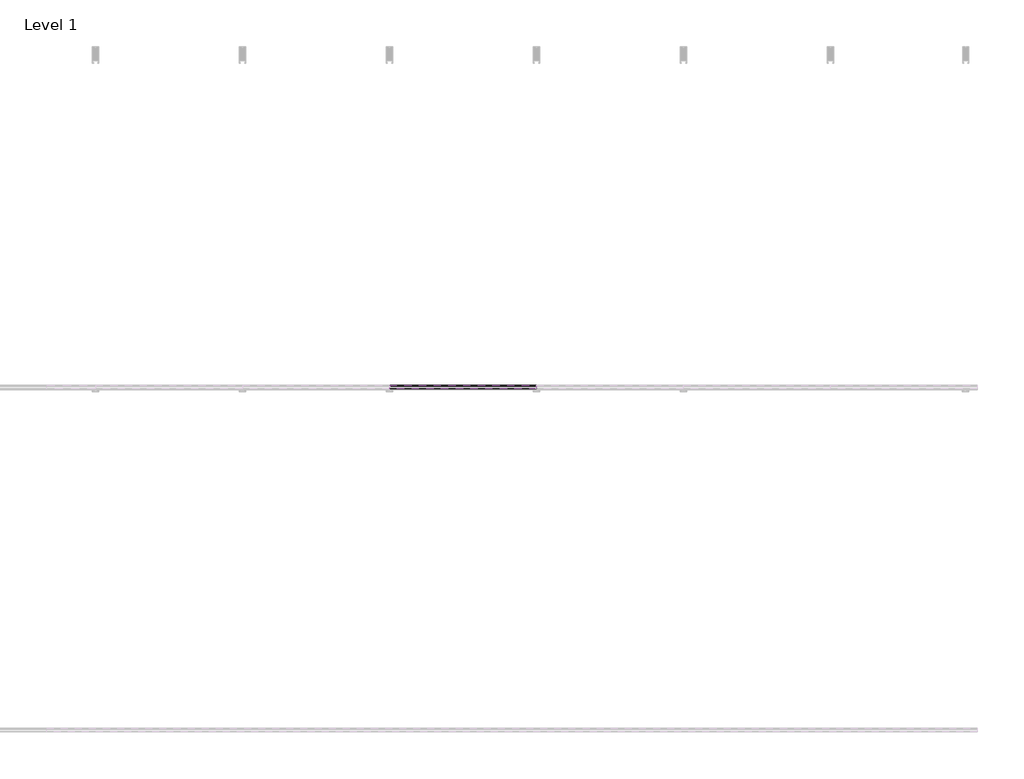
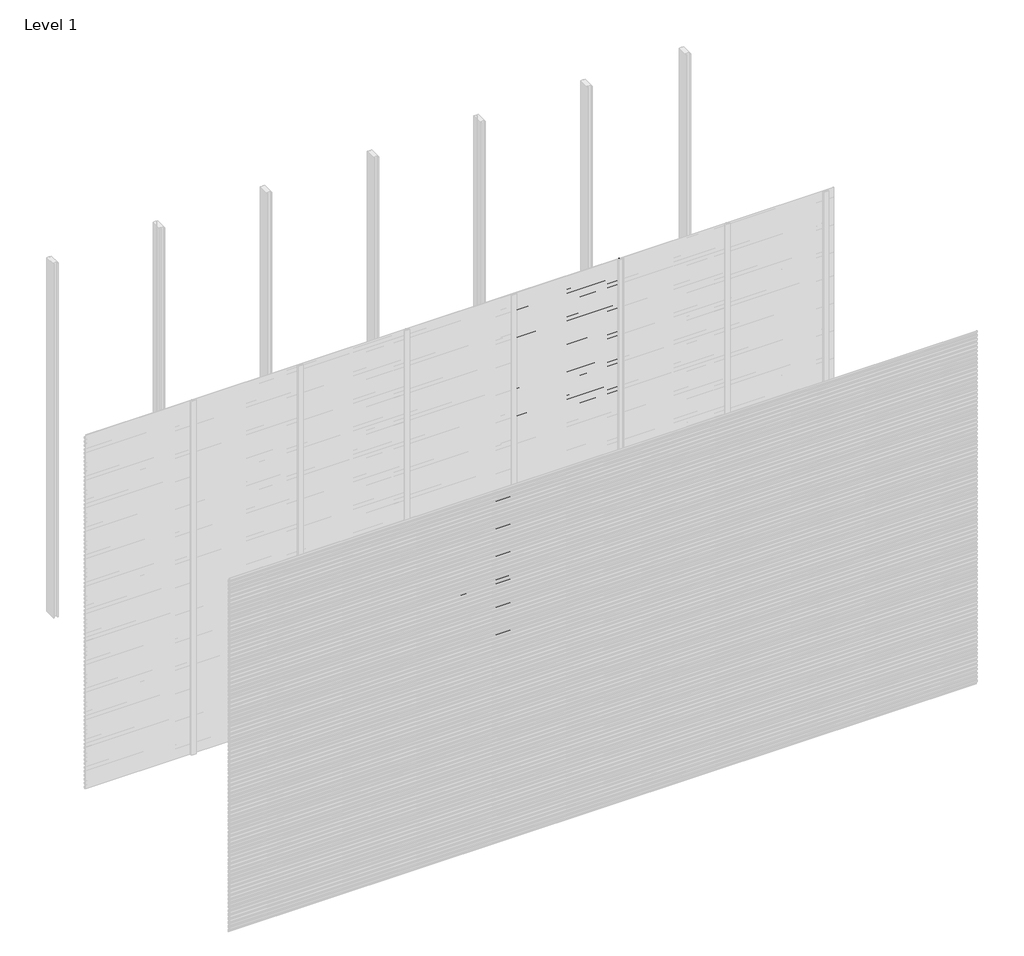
# One storey, part 56 of 96: 77 proxies.
"""IFC4 building model written with IfcOpenShell, lengths in millimetres."""

from ifc_helpers import new_model, si_unit, frame, origin, place, context, project, spatial, polyline, outline, extrude, element, save

model = new_model("IFC4")

# Units and contexts
model_context = context("Model", 3, world=origin())
ifc_project = project(units=[si_unit("LENGTHUNIT", "METRE", prefix="MILLI")], contexts=[model_context])

# Site, building, storey
site = spatial("IfcSite", under=ifc_project)
building = spatial("IfcBuilding", under=site)
storey = spatial("IfcBuildingStorey", under=building, Name="Level 1", Elevation=0.0)

# Proxies
placement = place(None, origin())
element("IfcBuildingElementProxy", 1, Name="Wall Sweeps", at=placement, inside=storey, context=model_context, shape_type="SweptSolid", body=[
    extrude(outline(polyline([(-23977.6, 1340.0655033), (-23977.6, 1325.7779188), (-23982.4114965, 1323.0), (-23982.4114965, 1324.2701706), (-23978.85, 1326.3264016), (-23978.85, 1339.3437382), (-23998.0, 1350.4000799), (-23998.0, 1365.3), (-23996.75, 1365.3), (-23996.75, 1351.1217609), (-23977.6, 1340.0655033)])), frame((2571.4285714, 0.0, 0.0), z_axis=(1.0, 0.0, 0.0), x_axis=(0.0, 1.0, 0.0)), (0.0, 0.0, 1.0), 857.1428571),
])
element("IfcBuildingElementProxy", 2, Name="Wall Sweeps", at=placement, inside=storey, context=model_context, shape_type="SweptSolid", body=[
    extrude(outline(polyline([(-23977.6, 1306.7655033), (-23977.6, 1292.4779188), (-23982.4114965, 1289.7), (-23982.4114965, 1290.9701706), (-23978.85, 1293.0264016), (-23978.85, 1306.0437382), (-23998.0, 1317.1000799), (-23998.0, 1332.0), (-23996.75, 1332.0), (-23996.75, 1317.8217609), (-23977.6, 1306.7655033)])), frame((2571.4285714, 0.0, 0.0), z_axis=(1.0, 0.0, 0.0), x_axis=(0.0, 1.0, 0.0)), (0.0, 0.0, 1.0), 857.1428571),
])
element("IfcBuildingElementProxy", 3, Name="Wall Sweeps", at=placement, inside=storey, context=model_context, shape_type="SweptSolid", body=[
    extrude(outline(polyline([(-23977.6, 1273.4655033), (-23977.6, 1259.1779188), (-23982.4114965, 1256.4), (-23982.4114965, 1257.6701706), (-23978.85, 1259.7264016), (-23978.85, 1272.7437382), (-23998.0, 1283.8000799), (-23998.0, 1298.7), (-23996.75, 1298.7), (-23996.75, 1284.5217609), (-23977.6, 1273.4655033)])), frame((2571.4285714, 0.0, 0.0), z_axis=(1.0, 0.0, 0.0), x_axis=(0.0, 1.0, 0.0)), (0.0, 0.0, 1.0), 857.1428571),
])
element("IfcBuildingElementProxy", 4, Name="Wall Sweeps", at=placement, inside=storey, context=model_context, shape_type="SweptSolid", body=[
    extrude(outline(polyline([(-23977.6, 1240.1655033), (-23977.6, 1225.8779188), (-23982.4114965, 1223.1), (-23982.4114965, 1224.3701706), (-23978.85, 1226.4264016), (-23978.85, 1239.4437382), (-23998.0, 1250.5000799), (-23998.0, 1265.4), (-23996.75, 1265.4), (-23996.75, 1251.2217609), (-23977.6, 1240.1655033)])), frame((2571.4285714, 0.0, 0.0), z_axis=(1.0, 0.0, 0.0), x_axis=(0.0, 1.0, 0.0)), (0.0, 0.0, 1.0), 857.1428571),
])
element("IfcBuildingElementProxy", 5, Name="Wall Sweeps", at=placement, inside=storey, context=model_context, shape_type="SweptSolid", body=[
    extrude(outline(polyline([(-23977.6, 1206.8655033), (-23977.6, 1192.5779188), (-23982.4114965, 1189.8), (-23982.4114965, 1191.0701706), (-23978.85, 1193.1264016), (-23978.85, 1206.1437382), (-23998.0, 1217.2000799), (-23998.0, 1232.1), (-23996.75, 1232.1), (-23996.75, 1217.9217609), (-23977.6, 1206.8655033)])), frame((2571.4285714, 0.0, 0.0), z_axis=(1.0, 0.0, 0.0), x_axis=(0.0, 1.0, 0.0)), (0.0, 0.0, 1.0), 857.1428571),
])
element("IfcBuildingElementProxy", 6, Name="Wall Sweeps", at=placement, inside=storey, context=model_context, shape_type="SweptSolid", body=[
    extrude(outline(polyline([(-23977.6, 1173.5655033), (-23977.6, 1159.2779188), (-23982.4114965, 1156.5), (-23982.4114965, 1157.7701706), (-23978.85, 1159.8264016), (-23978.85, 1172.8437382), (-23998.0, 1183.9000799), (-23998.0, 1198.8), (-23996.75, 1198.8), (-23996.75, 1184.6217609), (-23977.6, 1173.5655033)])), frame((2571.4285714, 0.0, 0.0), z_axis=(1.0, 0.0, 0.0), x_axis=(0.0, 1.0, 0.0)), (0.0, 0.0, 1.0), 857.1428571),
])
element("IfcBuildingElementProxy", 7, Name="Wall Sweeps", at=placement, inside=storey, context=model_context, shape_type="SweptSolid", body=[
    extrude(outline(polyline([(-23977.6, 1140.2655033), (-23977.6, 1125.9779188), (-23982.4114965, 1123.2), (-23982.4114965, 1124.4701706), (-23978.85, 1126.5264016), (-23978.85, 1139.5437382), (-23998.0, 1150.6000799), (-23998.0, 1165.5), (-23996.75, 1165.5), (-23996.75, 1151.3217609), (-23977.6, 1140.2655033)])), frame((2571.4285714, 0.0, 0.0), z_axis=(1.0, 0.0, 0.0), x_axis=(0.0, 1.0, 0.0)), (0.0, 0.0, 1.0), 857.1428571),
])
element("IfcBuildingElementProxy", 8, Name="Wall Sweeps", at=placement, inside=storey, context=model_context, shape_type="SweptSolid", body=[
    extrude(outline(polyline([(-23977.6, 1106.9655033), (-23977.6, 1092.6779188), (-23982.4114965, 1089.9), (-23982.4114965, 1091.1701706), (-23978.85, 1093.2264016), (-23978.85, 1106.2437382), (-23998.0, 1117.3000799), (-23998.0, 1132.2), (-23996.75, 1132.2), (-23996.75, 1118.0217609), (-23977.6, 1106.9655033)])), frame((2571.4285714, 0.0, 0.0), z_axis=(1.0, 0.0, 0.0), x_axis=(0.0, 1.0, 0.0)), (0.0, 0.0, 1.0), 857.1428571),
])
element("IfcBuildingElementProxy", 9, Name="Wall Sweeps", at=placement, inside=storey, context=model_context, shape_type="SweptSolid", body=[
    extrude(outline(polyline([(-23977.6, 1073.6655033), (-23977.6, 1059.3779188), (-23982.4114965, 1056.6), (-23982.4114965, 1057.8701706), (-23978.85, 1059.9264016), (-23978.85, 1072.9437382), (-23998.0, 1084.0000799), (-23998.0, 1098.9), (-23996.75, 1098.9), (-23996.75, 1084.7217609), (-23977.6, 1073.6655033)])), frame((2571.4285714, 0.0, 0.0), z_axis=(1.0, 0.0, 0.0), x_axis=(0.0, 1.0, 0.0)), (0.0, 0.0, 1.0), 857.1428571),
])
element("IfcBuildingElementProxy", 10, Name="Wall Sweeps", at=placement, inside=storey, context=model_context, shape_type="SweptSolid", body=[
    extrude(outline(polyline([(-23977.6, 1040.3655033), (-23977.6, 1026.0779188), (-23982.4114965, 1023.3), (-23982.4114965, 1024.5701706), (-23978.85, 1026.6264016), (-23978.85, 1039.6437382), (-23998.0, 1050.7000799), (-23998.0, 1065.6), (-23996.75, 1065.6), (-23996.75, 1051.4217609), (-23977.6, 1040.3655033)])), frame((2571.4285714, 0.0, 0.0), z_axis=(1.0, 0.0, 0.0), x_axis=(0.0, 1.0, 0.0)), (0.0, 0.0, 1.0), 857.1428571),
])
element("IfcBuildingElementProxy", 11, Name="Wall Sweeps", at=placement, inside=storey, context=model_context, shape_type="SweptSolid", body=[
    extrude(outline(polyline([(-23977.6, 1007.0655033), (-23977.6, 992.7779188), (-23982.4114965, 990.0), (-23982.4114965, 991.2701706), (-23978.85, 993.3264016), (-23978.85, 1006.3437382), (-23998.0, 1017.4000799), (-23998.0, 1032.3), (-23996.75, 1032.3), (-23996.75, 1018.1217609), (-23977.6, 1007.0655033)])), frame((2571.4285714, 0.0, 0.0), z_axis=(1.0, 0.0, 0.0), x_axis=(0.0, 1.0, 0.0)), (0.0, 0.0, 1.0), 857.1428571),
])
element("IfcBuildingElementProxy", 12, Name="Wall Sweeps", at=placement, inside=storey, context=model_context, shape_type="SweptSolid", body=[
    extrude(outline(polyline([(-23977.6, 973.7655033), (-23977.6, 959.4779188), (-23982.4114965, 956.7), (-23982.4114965, 957.9701706), (-23978.85, 960.0264016), (-23978.85, 973.0437382), (-23998.0, 984.1000799), (-23998.0, 999.0), (-23996.75, 999.0), (-23996.75, 984.8217609), (-23977.6, 973.7655033)])), frame((2571.4285714, 0.0, 0.0), z_axis=(1.0, 0.0, 0.0), x_axis=(0.0, 1.0, 0.0)), (0.0, 0.0, 1.0), 857.1428571),
])
element("IfcBuildingElementProxy", 13, Name="Wall Sweeps", at=placement, inside=storey, context=model_context, shape_type="SweptSolid", body=[
    extrude(outline(polyline([(-23977.6, 940.4655033), (-23977.6, 926.1779188), (-23982.4114965, 923.4), (-23982.4114965, 924.6701706), (-23978.85, 926.7264016), (-23978.85, 939.7437382), (-23998.0, 950.8000799), (-23998.0, 965.7), (-23996.75, 965.7), (-23996.75, 951.5217609), (-23977.6, 940.4655033)])), frame((2571.4285714, 0.0, 0.0), z_axis=(1.0, 0.0, 0.0), x_axis=(0.0, 1.0, 0.0)), (0.0, 0.0, 1.0), 857.1428571),
])
element("IfcBuildingElementProxy", 14, Name="Wall Sweeps", at=placement, inside=storey, context=model_context, shape_type="SweptSolid", body=[
    extrude(outline(polyline([(-23977.6, 907.1655033), (-23977.6, 892.8779188), (-23982.4114965, 890.1), (-23982.4114965, 891.3701706), (-23978.85, 893.4264016), (-23978.85, 906.4437382), (-23998.0, 917.5000799), (-23998.0, 932.4), (-23996.75, 932.4), (-23996.75, 918.2217609), (-23977.6, 907.1655033)])), frame((2571.4285714, 0.0, 0.0), z_axis=(1.0, 0.0, 0.0), x_axis=(0.0, 1.0, 0.0)), (0.0, 0.0, 1.0), 857.1428571),
])
element("IfcBuildingElementProxy", 15, Name="Wall Sweeps", at=placement, inside=storey, context=model_context, shape_type="SweptSolid", body=[
    extrude(outline(polyline([(-23977.6, 873.8655033), (-23977.6, 859.5779188), (-23982.4114965, 856.8), (-23982.4114965, 858.0701706), (-23978.85, 860.1264016), (-23978.85, 873.1437382), (-23998.0, 884.2000799), (-23998.0, 899.1), (-23996.75, 899.1), (-23996.75, 884.9217609), (-23977.6, 873.8655033)])), frame((2571.4285714, 0.0, 0.0), z_axis=(1.0, 0.0, 0.0), x_axis=(0.0, 1.0, 0.0)), (0.0, 0.0, 1.0), 857.1428571),
])
element("IfcBuildingElementProxy", 16, Name="Wall Sweeps", at=placement, inside=storey, context=model_context, shape_type="SweptSolid", body=[
    extrude(outline(polyline([(-23977.6, 840.5655033), (-23977.6, 826.2779188), (-23982.4114965, 823.5), (-23982.4114965, 824.7701706), (-23978.85, 826.8264016), (-23978.85, 839.8437382), (-23998.0, 850.9000799), (-23998.0, 865.8), (-23996.75, 865.8), (-23996.75, 851.6217609), (-23977.6, 840.5655033)])), frame((2571.4285714, 0.0, 0.0), z_axis=(1.0, 0.0, 0.0), x_axis=(0.0, 1.0, 0.0)), (0.0, 0.0, 1.0), 857.1428571),
])
element("IfcBuildingElementProxy", 17, Name="Wall Sweeps", at=placement, inside=storey, context=model_context, shape_type="SweptSolid", body=[
    extrude(outline(polyline([(-23977.6, 807.2655033), (-23977.6, 792.9779188), (-23982.4114965, 790.2), (-23982.4114965, 791.4701706), (-23978.85, 793.5264016), (-23978.85, 806.5437382), (-23998.0, 817.6000799), (-23998.0, 832.5), (-23996.75, 832.5), (-23996.75, 818.3217609), (-23977.6, 807.2655033)])), frame((2571.4285714, 0.0, 0.0), z_axis=(1.0, 0.0, 0.0), x_axis=(0.0, 1.0, 0.0)), (0.0, 0.0, 1.0), 857.1428571),
])
element("IfcBuildingElementProxy", 18, Name="Wall Sweeps", at=placement, inside=storey, context=model_context, shape_type="SweptSolid", body=[
    extrude(outline(polyline([(-23977.6, 773.9655033), (-23977.6, 759.6779188), (-23982.4114965, 756.9), (-23982.4114965, 758.1701706), (-23978.85, 760.2264016), (-23978.85, 773.2437382), (-23998.0, 784.3000799), (-23998.0, 799.2), (-23996.75, 799.2), (-23996.75, 785.0217609), (-23977.6, 773.9655033)])), frame((2571.4285714, 0.0, 0.0), z_axis=(1.0, 0.0, 0.0), x_axis=(0.0, 1.0, 0.0)), (0.0, 0.0, 1.0), 857.1428571),
])
element("IfcBuildingElementProxy", 19, Name="Wall Sweeps", at=placement, inside=storey, context=model_context, shape_type="SweptSolid", body=[
    extrude(outline(polyline([(-23977.6, 740.6655033), (-23977.6, 726.3779188), (-23982.4114965, 723.6), (-23982.4114965, 724.8701706), (-23978.85, 726.9264016), (-23978.85, 739.9437382), (-23998.0, 751.0000799), (-23998.0, 765.9), (-23996.75, 765.9), (-23996.75, 751.7217609), (-23977.6, 740.6655033)])), frame((2571.4285714, 0.0, 0.0), z_axis=(1.0, 0.0, 0.0), x_axis=(0.0, 1.0, 0.0)), (0.0, 0.0, 1.0), 857.1428571),
])
element("IfcBuildingElementProxy", 20, Name="Wall Sweeps", at=placement, inside=storey, context=model_context, shape_type="SweptSolid", body=[
    extrude(outline(polyline([(-23977.6, 707.3655033), (-23977.6, 693.0779188), (-23982.4114965, 690.3), (-23982.4114965, 691.5701706), (-23978.85, 693.6264016), (-23978.85, 706.6437382), (-23998.0, 717.7000799), (-23998.0, 732.6), (-23996.75, 732.6), (-23996.75, 718.4217609), (-23977.6, 707.3655033)])), frame((2571.4285714, 0.0, 0.0), z_axis=(1.0, 0.0, 0.0), x_axis=(0.0, 1.0, 0.0)), (0.0, 0.0, 1.0), 857.1428571),
])
element("IfcBuildingElementProxy", 21, Name="Wall Sweeps", at=placement, inside=storey, context=model_context, shape_type="SweptSolid", body=[
    extrude(outline(polyline([(-23977.6, 674.0655033), (-23977.6, 659.7779188), (-23982.4114965, 657.0), (-23982.4114965, 658.2701706), (-23978.85, 660.3264016), (-23978.85, 673.3437382), (-23998.0, 684.4000799), (-23998.0, 699.3), (-23996.75, 699.3), (-23996.75, 685.1217609), (-23977.6, 674.0655033)])), frame((2571.4285714, 0.0, 0.0), z_axis=(1.0, 0.0, 0.0), x_axis=(0.0, 1.0, 0.0)), (0.0, 0.0, 1.0), 857.1428571),
])
element("IfcBuildingElementProxy", 22, Name="Wall Sweeps", at=placement, inside=storey, context=model_context, shape_type="SweptSolid", body=[
    extrude(outline(polyline([(-23977.6, 640.7655033), (-23977.6, 626.4779188), (-23982.4114965, 623.7), (-23982.4114965, 624.9701706), (-23978.85, 627.0264016), (-23978.85, 640.0437382), (-23998.0, 651.1000799), (-23998.0, 666.0), (-23996.75, 666.0), (-23996.75, 651.8217609), (-23977.6, 640.7655033)])), frame((2571.4285714, 0.0, 0.0), z_axis=(1.0, 0.0, 0.0), x_axis=(0.0, 1.0, 0.0)), (0.0, 0.0, 1.0), 857.1428571),
])
element("IfcBuildingElementProxy", 23, Name="Wall Sweeps", at=placement, inside=storey, context=model_context, shape_type="SweptSolid", body=[
    extrude(outline(polyline([(-23977.6, 607.4655033), (-23977.6, 593.1779188), (-23982.4114965, 590.4), (-23982.4114965, 591.6701706), (-23978.85, 593.7264016), (-23978.85, 606.7437382), (-23998.0, 617.8000799), (-23998.0, 632.7), (-23996.75, 632.7), (-23996.75, 618.5217609), (-23977.6, 607.4655033)])), frame((2571.4285714, 0.0, 0.0), z_axis=(1.0, 0.0, 0.0), x_axis=(0.0, 1.0, 0.0)), (0.0, 0.0, 1.0), 857.1428571),
])
element("IfcBuildingElementProxy", 24, Name="Wall Sweeps", at=placement, inside=storey, context=model_context, shape_type="SweptSolid", body=[
    extrude(outline(polyline([(-23977.6, 574.1655033), (-23977.6, 559.8779188), (-23982.4114965, 557.1), (-23982.4114965, 558.3701706), (-23978.85, 560.4264016), (-23978.85, 573.4437382), (-23998.0, 584.5000799), (-23998.0, 599.4), (-23996.75, 599.4), (-23996.75, 585.2217609), (-23977.6, 574.1655033)])), frame((2571.4285714, 0.0, 0.0), z_axis=(1.0, 0.0, 0.0), x_axis=(0.0, 1.0, 0.0)), (0.0, 0.0, 1.0), 857.1428571),
])
element("IfcBuildingElementProxy", 25, Name="Wall Sweeps", at=placement, inside=storey, context=model_context, shape_type="SweptSolid", body=[
    extrude(outline(polyline([(-23977.6, 540.8655033), (-23977.6, 526.5779188), (-23982.4114965, 523.8), (-23982.4114965, 525.0701706), (-23978.85, 527.1264016), (-23978.85, 540.1437382), (-23998.0, 551.2000799), (-23998.0, 566.1), (-23996.75, 566.1), (-23996.75, 551.9217609), (-23977.6, 540.8655033)])), frame((2571.4285714, 0.0, 0.0), z_axis=(1.0, 0.0, 0.0), x_axis=(0.0, 1.0, 0.0)), (0.0, 0.0, 1.0), 857.1428571),
])
element("IfcBuildingElementProxy", 26, Name="Wall Sweeps", at=placement, inside=storey, context=model_context, shape_type="SweptSolid", body=[
    extrude(outline(polyline([(-23977.6, 507.5655033), (-23977.6, 493.2779188), (-23982.4114965, 490.5), (-23982.4114965, 491.7701706), (-23978.85, 493.8264016), (-23978.85, 506.8437382), (-23998.0, 517.9000799), (-23998.0, 532.8), (-23996.75, 532.8), (-23996.75, 518.6217609), (-23977.6, 507.5655033)])), frame((2571.4285714, 0.0, 0.0), z_axis=(1.0, 0.0, 0.0), x_axis=(0.0, 1.0, 0.0)), (0.0, 0.0, 1.0), 857.1428571),
])
element("IfcBuildingElementProxy", 27, Name="Wall Sweeps", at=placement, inside=storey, context=model_context, shape_type="SweptSolid", body=[
    extrude(outline(polyline([(-23977.6, 474.2655033), (-23977.6, 459.9779188), (-23982.4114965, 457.2), (-23982.4114965, 458.4701706), (-23978.85, 460.5264016), (-23978.85, 473.5437382), (-23998.0, 484.6000799), (-23998.0, 499.5), (-23996.75, 499.5), (-23996.75, 485.3217609), (-23977.6, 474.2655033)])), frame((2571.4285714, 0.0, 0.0), z_axis=(1.0, 0.0, 0.0), x_axis=(0.0, 1.0, 0.0)), (0.0, 0.0, 1.0), 857.1428571),
])
element("IfcBuildingElementProxy", 28, Name="Wall Sweeps", at=placement, inside=storey, context=model_context, shape_type="SweptSolid", body=[
    extrude(outline(polyline([(-23977.6, 440.9655033), (-23977.6, 426.6779188), (-23982.4114965, 423.9), (-23982.4114965, 425.1701706), (-23978.85, 427.2264016), (-23978.85, 440.2437382), (-23998.0, 451.3000799), (-23998.0, 466.2), (-23996.75, 466.2), (-23996.75, 452.0217609), (-23977.6, 440.9655033)])), frame((2571.4285714, 0.0, 0.0), z_axis=(1.0, 0.0, 0.0), x_axis=(0.0, 1.0, 0.0)), (0.0, 0.0, 1.0), 857.1428571),
])
element("IfcBuildingElementProxy", 29, Name="Wall Sweeps", at=placement, inside=storey, context=model_context, shape_type="SweptSolid", body=[
    extrude(outline(polyline([(-23977.6, 407.6655033), (-23977.6, 393.3779188), (-23982.4114965, 390.6), (-23982.4114965, 391.8701706), (-23978.85, 393.9264016), (-23978.85, 406.9437382), (-23998.0, 418.0000799), (-23998.0, 432.9), (-23996.75, 432.9), (-23996.75, 418.7217609), (-23977.6, 407.6655033)])), frame((2571.4285714, 0.0, 0.0), z_axis=(1.0, 0.0, 0.0), x_axis=(0.0, 1.0, 0.0)), (0.0, 0.0, 1.0), 857.1428571),
])
element("IfcBuildingElementProxy", 30, Name="Wall Sweeps", at=placement, inside=storey, context=model_context, shape_type="SweptSolid", body=[
    extrude(outline(polyline([(-23977.6, 374.3655033), (-23977.6, 360.0779188), (-23982.4114965, 357.3), (-23982.4114965, 358.5701706), (-23978.85, 360.6264016), (-23978.85, 373.6437382), (-23998.0, 384.7000799), (-23998.0, 399.6), (-23996.75, 399.6), (-23996.75, 385.4217609), (-23977.6, 374.3655033)])), frame((2571.4285714, 0.0, 0.0), z_axis=(1.0, 0.0, 0.0), x_axis=(0.0, 1.0, 0.0)), (0.0, 0.0, 1.0), 857.1428571),
])
element("IfcBuildingElementProxy", 31, Name="Wall Sweeps", at=placement, inside=storey, context=model_context, shape_type="SweptSolid", body=[
    extrude(outline(polyline([(-23977.6, 341.0655033), (-23977.6, 326.7779188), (-23982.4114965, 324.0), (-23982.4114965, 325.2701706), (-23978.85, 327.3264016), (-23978.85, 340.3437382), (-23998.0, 351.4000799), (-23998.0, 366.3), (-23996.75, 366.3), (-23996.75, 352.1217609), (-23977.6, 341.0655033)])), frame((2571.4285714, 0.0, 0.0), z_axis=(1.0, 0.0, 0.0), x_axis=(0.0, 1.0, 0.0)), (0.0, 0.0, 1.0), 857.1428571),
])
element("IfcBuildingElementProxy", 32, Name="Wall Sweeps", at=placement, inside=storey, context=model_context, shape_type="SweptSolid", body=[
    extrude(outline(polyline([(-23977.6, 307.7655033), (-23977.6, 293.4779188), (-23982.4114965, 290.7), (-23982.4114965, 291.9701706), (-23978.85, 294.0264016), (-23978.85, 307.0437382), (-23998.0, 318.1000799), (-23998.0, 333.0), (-23996.75, 333.0), (-23996.75, 318.8217609), (-23977.6, 307.7655033)])), frame((2571.4285714, 0.0, 0.0), z_axis=(1.0, 0.0, 0.0), x_axis=(0.0, 1.0, 0.0)), (0.0, 0.0, 1.0), 857.1428571),
])
element("IfcBuildingElementProxy", 33, Name="Wall Sweeps", at=placement, inside=storey, context=model_context, shape_type="SweptSolid", body=[
    extrude(outline(polyline([(-23977.6, 274.4655033), (-23977.6, 260.1779188), (-23982.4114965, 257.4), (-23982.4114965, 258.6701706), (-23978.85, 260.7264016), (-23978.85, 273.7437382), (-23998.0, 284.8000799), (-23998.0, 299.7), (-23996.75, 299.7), (-23996.75, 285.5217609), (-23977.6, 274.4655033)])), frame((2571.4285714, 0.0, 0.0), z_axis=(1.0, 0.0, 0.0), x_axis=(0.0, 1.0, 0.0)), (0.0, 0.0, 1.0), 857.1428571),
])
element("IfcBuildingElementProxy", 34, Name="Wall Sweeps", at=placement, inside=storey, context=model_context, shape_type="SweptSolid", body=[
    extrude(outline(polyline([(-23977.6, 241.1655033), (-23977.6, 226.8779188), (-23982.4114965, 224.1), (-23982.4114965, 225.3701706), (-23978.85, 227.4264016), (-23978.85, 240.4437382), (-23998.0, 251.5000799), (-23998.0, 266.4), (-23996.75, 266.4), (-23996.75, 252.2217609), (-23977.6, 241.1655033)])), frame((2571.4285714, 0.0, 0.0), z_axis=(1.0, 0.0, 0.0), x_axis=(0.0, 1.0, 0.0)), (0.0, 0.0, 1.0), 857.1428571),
])
element("IfcBuildingElementProxy", 35, Name="Wall Sweeps", at=placement, inside=storey, context=model_context, shape_type="SweptSolid", body=[
    extrude(outline(polyline([(-23977.6, 207.8655033), (-23977.6, 193.5779188), (-23982.4114965, 190.8), (-23982.4114965, 192.0701706), (-23978.85, 194.1264016), (-23978.85, 207.1437382), (-23998.0, 218.2000799), (-23998.0, 233.1), (-23996.75, 233.1), (-23996.75, 218.9217609), (-23977.6, 207.8655033)])), frame((2571.4285714, 0.0, 0.0), z_axis=(1.0, 0.0, 0.0), x_axis=(0.0, 1.0, 0.0)), (0.0, 0.0, 1.0), 857.1428571),
])
element("IfcBuildingElementProxy", 36, Name="Wall Sweeps", at=placement, inside=storey, context=model_context, shape_type="SweptSolid", body=[
    extrude(outline(polyline([(-23977.6, 174.5655033), (-23977.6, 160.2779188), (-23982.4114965, 157.5), (-23982.4114965, 158.7701706), (-23978.85, 160.8264016), (-23978.85, 173.8437382), (-23998.0, 184.9000799), (-23998.0, 199.8), (-23996.75, 199.8), (-23996.75, 185.6217609), (-23977.6, 174.5655033)])), frame((2571.4285714, 0.0, 0.0), z_axis=(1.0, 0.0, 0.0), x_axis=(0.0, 1.0, 0.0)), (0.0, 0.0, 1.0), 857.1428571),
])
element("IfcBuildingElementProxy", 37, Name="Wall Sweeps", at=placement, inside=storey, context=model_context, shape_type="SweptSolid", body=[
    extrude(outline(polyline([(-23977.6, 141.2655033), (-23977.6, 126.9779188), (-23982.4114965, 124.2), (-23982.4114965, 125.4701706), (-23978.85, 127.5264016), (-23978.85, 140.5437382), (-23998.0, 151.6000799), (-23998.0, 166.5), (-23996.75, 166.5), (-23996.75, 152.3217609), (-23977.6, 141.2655033)])), frame((2571.4285714, 0.0, 0.0), z_axis=(1.0, 0.0, 0.0), x_axis=(0.0, 1.0, 0.0)), (0.0, 0.0, 1.0), 857.1428571),
])
element("IfcBuildingElementProxy", 38, Name="Wall Sweeps", at=placement, inside=storey, context=model_context, shape_type="SweptSolid", body=[
    extrude(outline(polyline([(-23977.6, 107.9655033), (-23977.6, 93.6779188), (-23982.4114965, 90.9), (-23982.4114965, 92.1701706), (-23978.85, 94.2264016), (-23978.85, 107.2437382), (-23998.0, 118.3000799), (-23998.0, 133.2), (-23996.75, 133.2), (-23996.75, 119.0217609), (-23977.6, 107.9655033)])), frame((2571.4285714, 0.0, 0.0), z_axis=(1.0, 0.0, 0.0), x_axis=(0.0, 1.0, 0.0)), (0.0, 0.0, 1.0), 857.1428571),
])
element("IfcBuildingElementProxy", 39, Name="Wall Sweeps", at=placement, inside=storey, context=model_context, shape_type="SweptSolid", body=[
    extrude(outline(polyline([(-23977.6, 74.6655033), (-23977.6, 60.3779188), (-23982.4114965, 57.6), (-23982.4114965, 58.8701706), (-23978.85, 60.9264016), (-23978.85, 73.9437382), (-23998.0, 85.0000799), (-23998.0, 99.9), (-23996.75, 99.9), (-23996.75, 85.7217609), (-23977.6, 74.6655033)])), frame((2571.4285714, 0.0, 0.0), z_axis=(1.0, 0.0, 0.0), x_axis=(0.0, 1.0, 0.0)), (0.0, 0.0, 1.0), 857.1428571),
])
element("IfcBuildingElementProxy", 40, Name="Wall Sweeps", at=placement, inside=storey, context=model_context, shape_type="SweptSolid", body=[
    extrude(outline(polyline([(-23977.6, 41.3655033), (-23977.6, 27.0779188), (-23982.4114965, 24.3), (-23982.4114965, 25.5701706), (-23978.85, 27.6264016), (-23978.85, 40.6437382), (-23998.0, 51.7000799), (-23998.0, 66.6), (-23996.75, 66.6), (-23996.75, 52.4217609), (-23977.6, 41.3655033)])), frame((2571.4285714, 0.0, 0.0), z_axis=(1.0, 0.0, 0.0), x_axis=(0.0, 1.0, 0.0)), (0.0, 0.0, 1.0), 857.1428571),
])
element("IfcBuildingElementProxy", 41, Name="Wall Sweeps", at=placement, inside=storey, context=model_context, shape_type="SweptSolid", body=[
    extrude(outline(polyline([(-23977.6, 8.0655033), (-23977.6, -6.2220812), (-23982.4114965, -9.0), (-23982.4114965, -7.7298294), (-23978.85, -5.6735984), (-23978.85, 7.3437382), (-23998.0, 18.4000799), (-23998.0, 33.3), (-23996.75, 33.3), (-23996.75, 19.1217609), (-23977.6, 8.0655033)])), frame((2571.4285714, 0.0, 0.0), z_axis=(1.0, 0.0, 0.0), x_axis=(0.0, 1.0, 0.0)), (0.0, 0.0, 1.0), 857.1428571),
])
element("IfcBuildingElementProxy", 42, Name="Wall Sweeps", at=placement, inside=storey, context=model_context, shape_type="SweptSolid", body=[
    extrude(outline(polyline([(-23977.6, 2971.7655033), (-23977.6, 2957.4779188), (-23982.4114965, 2954.7), (-23982.4114965, 2955.9701706), (-23978.85, 2958.0264016), (-23978.85, 2971.0437382), (-23998.0, 2982.1000799), (-23998.0, 2997.0), (-23996.75, 2997.0), (-23996.75, 2982.8217609), (-23977.6, 2971.7655033)])), frame((3428.5714286, 0.0, 0.0), z_axis=(1.0, 0.0, 0.0), x_axis=(0.0, 1.0, 0.0)), (0.0, 0.0, 1.0), 857.1428571),
])
element("IfcBuildingElementProxy", 43, Name="Wall Sweeps", at=placement, inside=storey, context=model_context, shape_type="SweptSolid", body=[
    extrude(outline(polyline([(-23977.6, 2938.4655033), (-23977.6, 2924.1779188), (-23982.4114965, 2921.4), (-23982.4114965, 2922.6701706), (-23978.85, 2924.7264016), (-23978.85, 2937.7437382), (-23998.0, 2948.8000799), (-23998.0, 2963.7), (-23996.75, 2963.7), (-23996.75, 2949.5217609), (-23977.6, 2938.4655033)])), frame((3428.5714286, 0.0, 0.0), z_axis=(1.0, 0.0, 0.0), x_axis=(0.0, 1.0, 0.0)), (0.0, 0.0, 1.0), 857.1428571),
])
element("IfcBuildingElementProxy", 44, Name="Wall Sweeps", at=placement, inside=storey, context=model_context, shape_type="SweptSolid", body=[
    extrude(outline(polyline([(-23977.6, 2905.1655033), (-23977.6, 2890.8779188), (-23982.4114965, 2888.1), (-23982.4114965, 2889.3701706), (-23978.85, 2891.4264016), (-23978.85, 2904.4437382), (-23998.0, 2915.5000799), (-23998.0, 2930.4), (-23996.75, 2930.4), (-23996.75, 2916.2217609), (-23977.6, 2905.1655033)])), frame((3428.5714286, 0.0, 0.0), z_axis=(1.0, 0.0, 0.0), x_axis=(0.0, 1.0, 0.0)), (0.0, 0.0, 1.0), 857.1428571),
])
element("IfcBuildingElementProxy", 45, Name="Wall Sweeps", at=placement, inside=storey, context=model_context, shape_type="SweptSolid", body=[
    extrude(outline(polyline([(-23977.6, 2871.8655033), (-23977.6, 2857.5779188), (-23982.4114965, 2854.8), (-23982.4114965, 2856.0701706), (-23978.85, 2858.1264016), (-23978.85, 2871.1437382), (-23998.0, 2882.2000799), (-23998.0, 2897.1), (-23996.75, 2897.1), (-23996.75, 2882.9217609), (-23977.6, 2871.8655033)])), frame((3428.5714286, 0.0, 0.0), z_axis=(1.0, 0.0, 0.0), x_axis=(0.0, 1.0, 0.0)), (0.0, 0.0, 1.0), 857.1428571),
])
element("IfcBuildingElementProxy", 46, Name="Wall Sweeps", at=placement, inside=storey, context=model_context, shape_type="SweptSolid", body=[
    extrude(outline(polyline([(-23977.6, 2838.5655033), (-23977.6, 2824.2779188), (-23982.4114965, 2821.5), (-23982.4114965, 2822.7701706), (-23978.85, 2824.8264016), (-23978.85, 2837.8437382), (-23998.0, 2848.9000799), (-23998.0, 2863.8), (-23996.75, 2863.8), (-23996.75, 2849.6217609), (-23977.6, 2838.5655033)])), frame((3428.5714286, 0.0, 0.0), z_axis=(1.0, 0.0, 0.0), x_axis=(0.0, 1.0, 0.0)), (0.0, 0.0, 1.0), 857.1428571),
])
element("IfcBuildingElementProxy", 47, Name="Wall Sweeps", at=placement, inside=storey, context=model_context, shape_type="SweptSolid", body=[
    extrude(outline(polyline([(-23977.6, 2805.2655033), (-23977.6, 2790.9779188), (-23982.4114965, 2788.2), (-23982.4114965, 2789.4701706), (-23978.85, 2791.5264016), (-23978.85, 2804.5437382), (-23998.0, 2815.6000799), (-23998.0, 2830.5), (-23996.75, 2830.5), (-23996.75, 2816.3217609), (-23977.6, 2805.2655033)])), frame((3428.5714286, 0.0, 0.0), z_axis=(1.0, 0.0, 0.0), x_axis=(0.0, 1.0, 0.0)), (0.0, 0.0, 1.0), 857.1428571),
])
element("IfcBuildingElementProxy", 48, Name="Wall Sweeps", at=placement, inside=storey, context=model_context, shape_type="SweptSolid", body=[
    extrude(outline(polyline([(-23977.6, 2771.9655033), (-23977.6, 2757.6779188), (-23982.4114965, 2754.9), (-23982.4114965, 2756.1701706), (-23978.85, 2758.2264016), (-23978.85, 2771.2437382), (-23998.0, 2782.3000799), (-23998.0, 2797.2), (-23996.75, 2797.2), (-23996.75, 2783.0217609), (-23977.6, 2771.9655033)])), frame((3428.5714286, 0.0, 0.0), z_axis=(1.0, 0.0, 0.0), x_axis=(0.0, 1.0, 0.0)), (0.0, 0.0, 1.0), 857.1428571),
])
element("IfcBuildingElementProxy", 49, Name="Wall Sweeps", at=placement, inside=storey, context=model_context, shape_type="SweptSolid", body=[
    extrude(outline(polyline([(-23977.6, 2738.6655033), (-23977.6, 2724.3779188), (-23982.4114965, 2721.6), (-23982.4114965, 2722.8701706), (-23978.85, 2724.9264016), (-23978.85, 2737.9437382), (-23998.0, 2749.0000799), (-23998.0, 2763.9), (-23996.75, 2763.9), (-23996.75, 2749.7217609), (-23977.6, 2738.6655033)])), frame((3428.5714286, 0.0, 0.0), z_axis=(1.0, 0.0, 0.0), x_axis=(0.0, 1.0, 0.0)), (0.0, 0.0, 1.0), 857.1428571),
])
element("IfcBuildingElementProxy", 50, Name="Wall Sweeps", at=placement, inside=storey, context=model_context, shape_type="SweptSolid", body=[
    extrude(outline(polyline([(-23977.6, 2705.3655033), (-23977.6, 2691.0779188), (-23982.4114965, 2688.3), (-23982.4114965, 2689.5701706), (-23978.85, 2691.6264016), (-23978.85, 2704.6437382), (-23998.0, 2715.7000799), (-23998.0, 2730.6), (-23996.75, 2730.6), (-23996.75, 2716.4217609), (-23977.6, 2705.3655033)])), frame((3428.5714286, 0.0, 0.0), z_axis=(1.0, 0.0, 0.0), x_axis=(0.0, 1.0, 0.0)), (0.0, 0.0, 1.0), 857.1428571),
])
element("IfcBuildingElementProxy", 51, Name="Wall Sweeps", at=placement, inside=storey, context=model_context, shape_type="SweptSolid", body=[
    extrude(outline(polyline([(-23977.6, 2672.0655033), (-23977.6, 2657.7779188), (-23982.4114965, 2655.0), (-23982.4114965, 2656.2701706), (-23978.85, 2658.3264016), (-23978.85, 2671.3437382), (-23998.0, 2682.4000799), (-23998.0, 2697.3), (-23996.75, 2697.3), (-23996.75, 2683.1217609), (-23977.6, 2672.0655033)])), frame((3428.5714286, 0.0, 0.0), z_axis=(1.0, 0.0, 0.0), x_axis=(0.0, 1.0, 0.0)), (0.0, 0.0, 1.0), 857.1428571),
])
element("IfcBuildingElementProxy", 52, Name="Wall Sweeps", at=placement, inside=storey, context=model_context, shape_type="SweptSolid", body=[
    extrude(outline(polyline([(-23977.6, 2638.7655033), (-23977.6, 2624.4779188), (-23982.4114965, 2621.7), (-23982.4114965, 2622.9701706), (-23978.85, 2625.0264016), (-23978.85, 2638.0437382), (-23998.0, 2649.1000799), (-23998.0, 2664.0), (-23996.75, 2664.0), (-23996.75, 2649.8217609), (-23977.6, 2638.7655033)])), frame((3428.5714286, 0.0, 0.0), z_axis=(1.0, 0.0, 0.0), x_axis=(0.0, 1.0, 0.0)), (0.0, 0.0, 1.0), 857.1428571),
])
element("IfcBuildingElementProxy", 53, Name="Wall Sweeps", at=placement, inside=storey, context=model_context, shape_type="SweptSolid", body=[
    extrude(outline(polyline([(-23977.6, 2605.4655033), (-23977.6, 2591.1779188), (-23982.4114965, 2588.4), (-23982.4114965, 2589.6701706), (-23978.85, 2591.7264016), (-23978.85, 2604.7437382), (-23998.0, 2615.8000799), (-23998.0, 2630.7), (-23996.75, 2630.7), (-23996.75, 2616.5217609), (-23977.6, 2605.4655033)])), frame((3428.5714286, 0.0, 0.0), z_axis=(1.0, 0.0, 0.0), x_axis=(0.0, 1.0, 0.0)), (0.0, 0.0, 1.0), 857.1428571),
])
element("IfcBuildingElementProxy", 54, Name="Wall Sweeps", at=placement, inside=storey, context=model_context, shape_type="SweptSolid", body=[
    extrude(outline(polyline([(-23977.6, 2572.1655033), (-23977.6, 2557.8779188), (-23982.4114965, 2555.1), (-23982.4114965, 2556.3701706), (-23978.85, 2558.4264016), (-23978.85, 2571.4437382), (-23998.0, 2582.5000799), (-23998.0, 2597.4), (-23996.75, 2597.4), (-23996.75, 2583.2217609), (-23977.6, 2572.1655033)])), frame((3428.5714286, 0.0, 0.0), z_axis=(1.0, 0.0, 0.0), x_axis=(0.0, 1.0, 0.0)), (0.0, 0.0, 1.0), 857.1428571),
])
element("IfcBuildingElementProxy", 55, Name="Wall Sweeps", at=placement, inside=storey, context=model_context, shape_type="SweptSolid", body=[
    extrude(outline(polyline([(-23977.6, 2538.8655033), (-23977.6, 2524.5779188), (-23982.4114965, 2521.8), (-23982.4114965, 2523.0701706), (-23978.85, 2525.1264016), (-23978.85, 2538.1437382), (-23998.0, 2549.2000799), (-23998.0, 2564.1), (-23996.75, 2564.1), (-23996.75, 2549.9217609), (-23977.6, 2538.8655033)])), frame((3428.5714286, 0.0, 0.0), z_axis=(1.0, 0.0, 0.0), x_axis=(0.0, 1.0, 0.0)), (0.0, 0.0, 1.0), 857.1428571),
])
element("IfcBuildingElementProxy", 56, Name="Wall Sweeps", at=placement, inside=storey, context=model_context, shape_type="SweptSolid", body=[
    extrude(outline(polyline([(-23977.6, 2505.5655033), (-23977.6, 2491.2779188), (-23982.4114965, 2488.5), (-23982.4114965, 2489.7701706), (-23978.85, 2491.8264016), (-23978.85, 2504.8437382), (-23998.0, 2515.9000799), (-23998.0, 2530.8), (-23996.75, 2530.8), (-23996.75, 2516.6217609), (-23977.6, 2505.5655033)])), frame((3428.5714286, 0.0, 0.0), z_axis=(1.0, 0.0, 0.0), x_axis=(0.0, 1.0, 0.0)), (0.0, 0.0, 1.0), 857.1428571),
])
element("IfcBuildingElementProxy", 57, Name="Wall Sweeps", at=placement, inside=storey, context=model_context, shape_type="SweptSolid", body=[
    extrude(outline(polyline([(-23977.6, 2472.2655033), (-23977.6, 2457.9779188), (-23982.4114965, 2455.2), (-23982.4114965, 2456.4701706), (-23978.85, 2458.5264016), (-23978.85, 2471.5437382), (-23998.0, 2482.6000799), (-23998.0, 2497.5), (-23996.75, 2497.5), (-23996.75, 2483.3217609), (-23977.6, 2472.2655033)])), frame((3428.5714286, 0.0, 0.0), z_axis=(1.0, 0.0, 0.0), x_axis=(0.0, 1.0, 0.0)), (0.0, 0.0, 1.0), 857.1428571),
])
element("IfcBuildingElementProxy", 58, Name="Wall Sweeps", at=placement, inside=storey, context=model_context, shape_type="SweptSolid", body=[
    extrude(outline(polyline([(-23977.6, 2438.9655033), (-23977.6, 2424.6779188), (-23982.4114965, 2421.9), (-23982.4114965, 2423.1701706), (-23978.85, 2425.2264016), (-23978.85, 2438.2437382), (-23998.0, 2449.3000799), (-23998.0, 2464.2), (-23996.75, 2464.2), (-23996.75, 2450.0217609), (-23977.6, 2438.9655033)])), frame((3428.5714286, 0.0, 0.0), z_axis=(1.0, 0.0, 0.0), x_axis=(0.0, 1.0, 0.0)), (0.0, 0.0, 1.0), 857.1428571),
])
element("IfcBuildingElementProxy", 59, Name="Wall Sweeps", at=placement, inside=storey, context=model_context, shape_type="SweptSolid", body=[
    extrude(outline(polyline([(-23977.6, 2405.6655033), (-23977.6, 2391.3779188), (-23982.4114965, 2388.6), (-23982.4114965, 2389.8701706), (-23978.85, 2391.9264016), (-23978.85, 2404.9437382), (-23998.0, 2416.0000799), (-23998.0, 2430.9), (-23996.75, 2430.9), (-23996.75, 2416.7217609), (-23977.6, 2405.6655033)])), frame((3428.5714286, 0.0, 0.0), z_axis=(1.0, 0.0, 0.0), x_axis=(0.0, 1.0, 0.0)), (0.0, 0.0, 1.0), 857.1428571),
])
element("IfcBuildingElementProxy", 60, Name="Wall Sweeps", at=placement, inside=storey, context=model_context, shape_type="SweptSolid", body=[
    extrude(outline(polyline([(-23977.6, 2372.3655033), (-23977.6, 2358.0779188), (-23982.4114965, 2355.3), (-23982.4114965, 2356.5701706), (-23978.85, 2358.6264016), (-23978.85, 2371.6437382), (-23998.0, 2382.7000799), (-23998.0, 2397.6), (-23996.75, 2397.6), (-23996.75, 2383.4217609), (-23977.6, 2372.3655033)])), frame((3428.5714286, 0.0, 0.0), z_axis=(1.0, 0.0, 0.0), x_axis=(0.0, 1.0, 0.0)), (0.0, 0.0, 1.0), 857.1428571),
])
element("IfcBuildingElementProxy", 61, Name="Wall Sweeps", at=placement, inside=storey, context=model_context, shape_type="SweptSolid", body=[
    extrude(outline(polyline([(-23977.6, 2339.0655033), (-23977.6, 2324.7779188), (-23982.4114965, 2322.0), (-23982.4114965, 2323.2701706), (-23978.85, 2325.3264016), (-23978.85, 2338.3437382), (-23998.0, 2349.4000799), (-23998.0, 2364.3), (-23996.75, 2364.3), (-23996.75, 2350.1217609), (-23977.6, 2339.0655033)])), frame((3428.5714286, 0.0, 0.0), z_axis=(1.0, 0.0, 0.0), x_axis=(0.0, 1.0, 0.0)), (0.0, 0.0, 1.0), 857.1428571),
])
element("IfcBuildingElementProxy", 62, Name="Wall Sweeps", at=placement, inside=storey, context=model_context, shape_type="SweptSolid", body=[
    extrude(outline(polyline([(-23977.6, 2305.7655033), (-23977.6, 2291.4779188), (-23982.4114965, 2288.7), (-23982.4114965, 2289.9701706), (-23978.85, 2292.0264016), (-23978.85, 2305.0437382), (-23998.0, 2316.1000799), (-23998.0, 2331.0), (-23996.75, 2331.0), (-23996.75, 2316.8217609), (-23977.6, 2305.7655033)])), frame((3428.5714286, 0.0, 0.0), z_axis=(1.0, 0.0, 0.0), x_axis=(0.0, 1.0, 0.0)), (0.0, 0.0, 1.0), 857.1428571),
])
element("IfcBuildingElementProxy", 63, Name="Wall Sweeps", at=placement, inside=storey, context=model_context, shape_type="SweptSolid", body=[
    extrude(outline(polyline([(-23977.6, 2272.4655033), (-23977.6, 2258.1779188), (-23982.4114965, 2255.4), (-23982.4114965, 2256.6701706), (-23978.85, 2258.7264016), (-23978.85, 2271.7437382), (-23998.0, 2282.8000799), (-23998.0, 2297.7), (-23996.75, 2297.7), (-23996.75, 2283.5217609), (-23977.6, 2272.4655033)])), frame((3428.5714286, 0.0, 0.0), z_axis=(1.0, 0.0, 0.0), x_axis=(0.0, 1.0, 0.0)), (0.0, 0.0, 1.0), 857.1428571),
])
element("IfcBuildingElementProxy", 64, Name="Wall Sweeps", at=placement, inside=storey, context=model_context, shape_type="SweptSolid", body=[
    extrude(outline(polyline([(-23977.6, 2239.1655033), (-23977.6, 2224.8779188), (-23982.4114965, 2222.1), (-23982.4114965, 2223.3701706), (-23978.85, 2225.4264016), (-23978.85, 2238.4437382), (-23998.0, 2249.5000799), (-23998.0, 2264.4), (-23996.75, 2264.4), (-23996.75, 2250.2217609), (-23977.6, 2239.1655033)])), frame((3428.5714286, 0.0, 0.0), z_axis=(1.0, 0.0, 0.0), x_axis=(0.0, 1.0, 0.0)), (0.0, 0.0, 1.0), 857.1428571),
])
element("IfcBuildingElementProxy", 65, Name="Wall Sweeps", at=placement, inside=storey, context=model_context, shape_type="SweptSolid", body=[
    extrude(outline(polyline([(-23977.6, 2205.8655033), (-23977.6, 2191.5779188), (-23982.4114965, 2188.8), (-23982.4114965, 2190.0701706), (-23978.85, 2192.1264016), (-23978.85, 2205.1437382), (-23998.0, 2216.2000799), (-23998.0, 2231.1), (-23996.75, 2231.1), (-23996.75, 2216.9217609), (-23977.6, 2205.8655033)])), frame((3428.5714286, 0.0, 0.0), z_axis=(1.0, 0.0, 0.0), x_axis=(0.0, 1.0, 0.0)), (0.0, 0.0, 1.0), 857.1428571),
])
element("IfcBuildingElementProxy", 66, Name="Wall Sweeps", at=placement, inside=storey, context=model_context, shape_type="SweptSolid", body=[
    extrude(outline(polyline([(-23977.6, 2172.5655033), (-23977.6, 2158.2779188), (-23982.4114965, 2155.5), (-23982.4114965, 2156.7701706), (-23978.85, 2158.8264016), (-23978.85, 2171.8437382), (-23998.0, 2182.9000799), (-23998.0, 2197.8), (-23996.75, 2197.8), (-23996.75, 2183.6217609), (-23977.6, 2172.5655033)])), frame((3428.5714286, 0.0, 0.0), z_axis=(1.0, 0.0, 0.0), x_axis=(0.0, 1.0, 0.0)), (0.0, 0.0, 1.0), 857.1428571),
])
element("IfcBuildingElementProxy", 67, Name="Wall Sweeps", at=placement, inside=storey, context=model_context, shape_type="SweptSolid", body=[
    extrude(outline(polyline([(-23977.6, 2139.2655033), (-23977.6, 2124.9779188), (-23982.4114965, 2122.2), (-23982.4114965, 2123.4701706), (-23978.85, 2125.5264016), (-23978.85, 2138.5437382), (-23998.0, 2149.6000799), (-23998.0, 2164.5), (-23996.75, 2164.5), (-23996.75, 2150.3217609), (-23977.6, 2139.2655033)])), frame((3428.5714286, 0.0, 0.0), z_axis=(1.0, 0.0, 0.0), x_axis=(0.0, 1.0, 0.0)), (0.0, 0.0, 1.0), 857.1428571),
])
element("IfcBuildingElementProxy", 68, Name="Wall Sweeps", at=placement, inside=storey, context=model_context, shape_type="SweptSolid", body=[
    extrude(outline(polyline([(-23977.6, 2105.9655033), (-23977.6, 2091.6779188), (-23982.4114965, 2088.9), (-23982.4114965, 2090.1701706), (-23978.85, 2092.2264016), (-23978.85, 2105.2437382), (-23998.0, 2116.3000799), (-23998.0, 2131.2), (-23996.75, 2131.2), (-23996.75, 2117.0217609), (-23977.6, 2105.9655033)])), frame((3428.5714286, 0.0, 0.0), z_axis=(1.0, 0.0, 0.0), x_axis=(0.0, 1.0, 0.0)), (0.0, 0.0, 1.0), 857.1428571),
])
element("IfcBuildingElementProxy", 69, Name="Wall Sweeps", at=placement, inside=storey, context=model_context, shape_type="SweptSolid", body=[
    extrude(outline(polyline([(-23977.6, 2072.6655033), (-23977.6, 2058.3779188), (-23982.4114965, 2055.6), (-23982.4114965, 2056.8701706), (-23978.85, 2058.9264016), (-23978.85, 2071.9437382), (-23998.0, 2083.0000799), (-23998.0, 2097.9), (-23996.75, 2097.9), (-23996.75, 2083.7217609), (-23977.6, 2072.6655033)])), frame((3428.5714286, 0.0, 0.0), z_axis=(1.0, 0.0, 0.0), x_axis=(0.0, 1.0, 0.0)), (0.0, 0.0, 1.0), 857.1428571),
])
element("IfcBuildingElementProxy", 70, Name="Wall Sweeps", at=placement, inside=storey, context=model_context, shape_type="SweptSolid", body=[
    extrude(outline(polyline([(-23977.6, 2039.3655033), (-23977.6, 2025.0779188), (-23982.4114965, 2022.3), (-23982.4114965, 2023.5701706), (-23978.85, 2025.6264016), (-23978.85, 2038.6437382), (-23998.0, 2049.7000799), (-23998.0, 2064.6), (-23996.75, 2064.6), (-23996.75, 2050.4217609), (-23977.6, 2039.3655033)])), frame((3428.5714286, 0.0, 0.0), z_axis=(1.0, 0.0, 0.0), x_axis=(0.0, 1.0, 0.0)), (0.0, 0.0, 1.0), 857.1428571),
])
element("IfcBuildingElementProxy", 71, Name="Wall Sweeps", at=placement, inside=storey, context=model_context, shape_type="SweptSolid", body=[
    extrude(outline(polyline([(-23977.6, 2006.0655033), (-23977.6, 1991.7779188), (-23982.4114965, 1989.0), (-23982.4114965, 1990.2701706), (-23978.85, 1992.3264016), (-23978.85, 2005.3437382), (-23998.0, 2016.4000799), (-23998.0, 2031.3), (-23996.75, 2031.3), (-23996.75, 2017.1217609), (-23977.6, 2006.0655033)])), frame((3428.5714286, 0.0, 0.0), z_axis=(1.0, 0.0, 0.0), x_axis=(0.0, 1.0, 0.0)), (0.0, 0.0, 1.0), 857.1428571),
])
element("IfcBuildingElementProxy", 72, Name="Wall Sweeps", at=placement, inside=storey, context=model_context, shape_type="SweptSolid", body=[
    extrude(outline(polyline([(-23977.6, 1972.7655033), (-23977.6, 1958.4779188), (-23982.4114965, 1955.7), (-23982.4114965, 1956.9701706), (-23978.85, 1959.0264016), (-23978.85, 1972.0437382), (-23998.0, 1983.1000799), (-23998.0, 1998.0), (-23996.75, 1998.0), (-23996.75, 1983.8217609), (-23977.6, 1972.7655033)])), frame((3428.5714286, 0.0, 0.0), z_axis=(1.0, 0.0, 0.0), x_axis=(0.0, 1.0, 0.0)), (0.0, 0.0, 1.0), 857.1428571),
])
element("IfcBuildingElementProxy", 73, Name="Wall Sweeps", at=placement, inside=storey, context=model_context, shape_type="SweptSolid", body=[
    extrude(outline(polyline([(-23977.6, 1939.4655033), (-23977.6, 1925.1779188), (-23982.4114965, 1922.4), (-23982.4114965, 1923.6701706), (-23978.85, 1925.7264016), (-23978.85, 1938.7437382), (-23998.0, 1949.8000799), (-23998.0, 1964.7), (-23996.75, 1964.7), (-23996.75, 1950.5217609), (-23977.6, 1939.4655033)])), frame((3428.5714286, 0.0, 0.0), z_axis=(1.0, 0.0, 0.0), x_axis=(0.0, 1.0, 0.0)), (0.0, 0.0, 1.0), 857.1428571),
])
element("IfcBuildingElementProxy", 74, Name="Wall Sweeps", at=placement, inside=storey, context=model_context, shape_type="SweptSolid", body=[
    extrude(outline(polyline([(-23977.6, 1906.1655033), (-23977.6, 1891.8779188), (-23982.4114965, 1889.1), (-23982.4114965, 1890.3701706), (-23978.85, 1892.4264016), (-23978.85, 1905.4437382), (-23998.0, 1916.5000799), (-23998.0, 1931.4), (-23996.75, 1931.4), (-23996.75, 1917.2217609), (-23977.6, 1906.1655033)])), frame((3428.5714286, 0.0, 0.0), z_axis=(1.0, 0.0, 0.0), x_axis=(0.0, 1.0, 0.0)), (0.0, 0.0, 1.0), 857.1428571),
])
element("IfcBuildingElementProxy", 75, Name="Wall Sweeps", at=placement, inside=storey, context=model_context, shape_type="SweptSolid", body=[
    extrude(outline(polyline([(-23977.6, 1872.8655033), (-23977.6, 1858.5779188), (-23982.4114965, 1855.8), (-23982.4114965, 1857.0701706), (-23978.85, 1859.1264016), (-23978.85, 1872.1437382), (-23998.0, 1883.2000799), (-23998.0, 1898.1), (-23996.75, 1898.1), (-23996.75, 1883.9217609), (-23977.6, 1872.8655033)])), frame((3428.5714286, 0.0, 0.0), z_axis=(1.0, 0.0, 0.0), x_axis=(0.0, 1.0, 0.0)), (0.0, 0.0, 1.0), 857.1428571),
])
element("IfcBuildingElementProxy", 76, Name="Wall Sweeps", at=placement, inside=storey, context=model_context, shape_type="SweptSolid", body=[
    extrude(outline(polyline([(-23977.6, 1839.5655033), (-23977.6, 1825.2779188), (-23982.4114965, 1822.5), (-23982.4114965, 1823.7701706), (-23978.85, 1825.8264016), (-23978.85, 1838.8437382), (-23998.0, 1849.9000799), (-23998.0, 1864.8), (-23996.75, 1864.8), (-23996.75, 1850.6217609), (-23977.6, 1839.5655033)])), frame((3428.5714286, 0.0, 0.0), z_axis=(1.0, 0.0, 0.0), x_axis=(0.0, 1.0, 0.0)), (0.0, 0.0, 1.0), 857.1428571),
])
element("IfcBuildingElementProxy", 77, Name="Wall Sweeps", at=placement, inside=storey, context=model_context, shape_type="SweptSolid", body=[
    extrude(outline(polyline([(-23977.6, 1806.2655033), (-23977.6, 1791.9779188), (-23982.4114965, 1789.2), (-23982.4114965, 1790.4701706), (-23978.85, 1792.5264016), (-23978.85, 1805.5437382), (-23998.0, 1816.6000799), (-23998.0, 1831.5), (-23996.75, 1831.5), (-23996.75, 1817.3217609), (-23977.6, 1806.2655033)])), frame((3428.5714286, 0.0, 0.0), z_axis=(1.0, 0.0, 0.0), x_axis=(0.0, 1.0, 0.0)), (0.0, 0.0, 1.0), 857.1428571),
])

save(model, "model.ifc")
